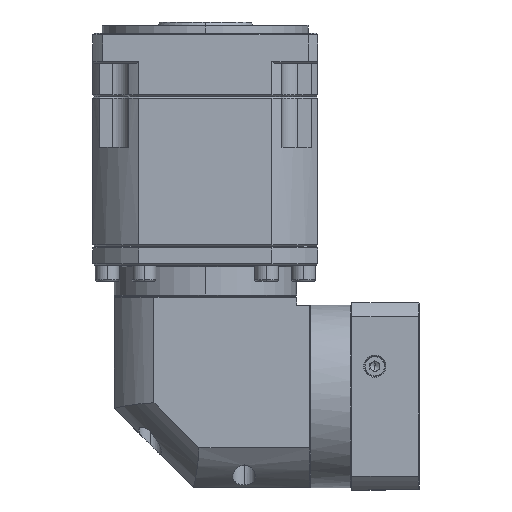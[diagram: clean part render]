
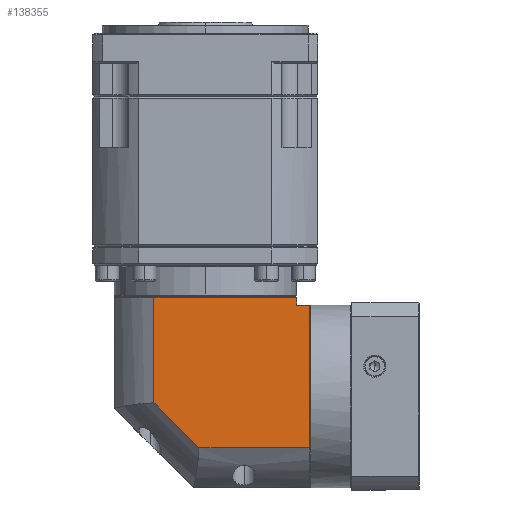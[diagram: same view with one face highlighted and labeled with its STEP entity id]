
A CAD part, left-side view. The second image highlights one B-rep face of the part: STEP entity #138355.
In plain terms, the highlighted planar face has unit normal (-1, 0, 0).
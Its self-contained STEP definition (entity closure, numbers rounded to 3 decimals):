
#5987 = ORIENTED_EDGE ( 'NONE', *, *, #155984, .T. ) ;
#12463 = ORIENTED_EDGE ( 'NONE', *, *, #62916, .T. ) ;
#15021 = EDGE_CURVE ( 'NONE', #121642, #122876, #119492, .T. ) ;
#19662 = DIRECTION ( 'NONE',  ( 0., 1., 0. ) ) ;
#22576 = LINE ( 'NONE', #161785, #163125 ) ;
#25067 = EDGE_CURVE ( 'NONE', #72164, #25904, #22576, .T. ) ;
#25904 = VERTEX_POINT ( 'NONE', #62056 ) ;
#29477 = CARTESIAN_POINT ( 'NONE',  ( -251.848, -12.854, -35.483 ) ) ;
#35493 = DIRECTION ( 'NONE',  ( 0., 0.707, 0.707 ) ) ;
#37113 = LINE ( 'NONE', #84628, #50010 ) ;
#40326 = LINE ( 'NONE', #75328, #157350 ) ;
#44530 = EDGE_CURVE ( 'NONE', #122876, #72164, #40326, .T. ) ;
#47743 = CARTESIAN_POINT ( 'NONE',  ( -251.848, 40.584, 65.916 ) ) ;
#48437 = ORIENTED_EDGE ( 'NONE', *, *, #44530, .F. ) ;
#50010 = VECTOR ( 'NONE', #85781, 1000. ) ;
#53731 = VECTOR ( 'NONE', #68060, 1000. ) ;
#55629 = CARTESIAN_POINT ( 'NONE',  ( -251.848, -74.416, 54.416 ) ) ;
#62056 = CARTESIAN_POINT ( 'NONE',  ( -251.848, 15.484, 59.416 ) ) ;
#62916 = EDGE_CURVE ( 'NONE', #138222, #67299, #145104, .T. ) ;
#67299 = VERTEX_POINT ( 'NONE', #145841 ) ;
#68060 = DIRECTION ( 'NONE',  ( 0., 1., 0. ) ) ;
#72164 = VERTEX_POINT ( 'NONE', #83449 ) ;
#75328 = CARTESIAN_POINT ( 'NONE',  ( -251.848, -12.854, -35.483 ) ) ;
#77417 = EDGE_CURVE ( 'NONE', #25904, #154450, #37113, .T. ) ;
#80232 = DIRECTION ( 'NONE',  ( 0., 0., 1. ) ) ;
#80488 = VECTOR ( 'NONE', #146425, 1000. ) ;
#83330 = VECTOR ( 'NONE', #86504, 1000. ) ;
#83449 = CARTESIAN_POINT ( 'NONE',  ( -251.848, 15.484, -7.145 ) ) ;
#84552 = CARTESIAN_POINT ( 'NONE',  ( -251.848, -82.816, 54.416 ) ) ;
#84628 = CARTESIAN_POINT ( 'NONE',  ( -251.848, 40.584, 59.416 ) ) ;
#85468 = FACE_OUTER_BOUND ( 'NONE', #121983, .T. ) ;
#85525 = AXIS2_PLACEMENT_3D ( 'NONE', #47743, #115955, #19662 ) ;
#85781 = DIRECTION ( 'NONE',  ( 0., -1., 0. ) ) ;
#86504 = DIRECTION ( 'NONE',  ( 0., 1., 0. ) ) ;
#87202 = ORIENTED_EDGE ( 'NONE', *, *, #15021, .F. ) ;
#93870 = CARTESIAN_POINT ( 'NONE',  ( -251.848, -82.816, 65.916 ) ) ;
#100570 = LINE ( 'NONE', #93870, #124035 ) ;
#103499 = ORIENTED_EDGE ( 'NONE', *, *, #113175, .F. ) ;
#113175 = EDGE_CURVE ( 'NONE', #138222, #121642, #100570, .T. ) ;
#115955 = DIRECTION ( 'NONE',  ( 1., 0., 0. ) ) ;
#119492 = LINE ( 'NONE', #129345, #83330 ) ;
#121642 = VERTEX_POINT ( 'NONE', #148213 ) ;
#121983 = EDGE_LOOP ( 'NONE', ( #143946, #48437, #87202, #103499, #12463, #5987, #124202 ) ) ;
#122876 = VERTEX_POINT ( 'NONE', #29477 ) ;
#124035 = VECTOR ( 'NONE', #163488, 1000. ) ;
#124202 = ORIENTED_EDGE ( 'NONE', *, *, #77417, .F. ) ;
#127343 = PLANE ( 'NONE',  #85525 ) ;
#129345 = CARTESIAN_POINT ( 'NONE',  ( -251.848, 40.584, -35.483 ) ) ;
#138222 = VERTEX_POINT ( 'NONE', #84552 ) ;
#138355 = ADVANCED_FACE ( 'NONE', ( #85468 ), #127343, .F. ) ;
#142042 = CARTESIAN_POINT ( 'NONE',  ( -251.848, -74.416, 59.416 ) ) ;
#142310 = LINE ( 'NONE', #145223, #80488 ) ;
#143946 = ORIENTED_EDGE ( 'NONE', *, *, #25067, .F. ) ;
#145104 = LINE ( 'NONE', #55629, #53731 ) ;
#145223 = CARTESIAN_POINT ( 'NONE',  ( -251.848, -74.416, -60.584 ) ) ;
#145841 = CARTESIAN_POINT ( 'NONE',  ( -251.848, -74.416, 54.416 ) ) ;
#146425 = DIRECTION ( 'NONE',  ( 0., 0., 1. ) ) ;
#148213 = CARTESIAN_POINT ( 'NONE',  ( -251.848, -82.816, -35.483 ) ) ;
#154450 = VERTEX_POINT ( 'NONE', #142042 ) ;
#155984 = EDGE_CURVE ( 'NONE', #67299, #154450, #142310, .T. ) ;
#157350 = VECTOR ( 'NONE', #35493, 1000. ) ;
#161785 = CARTESIAN_POINT ( 'NONE',  ( -251.848, 15.484, 65.916 ) ) ;
#163125 = VECTOR ( 'NONE', #80232, 1000. ) ;
#163488 = DIRECTION ( 'NONE',  ( 0., 0., -1. ) ) ;
